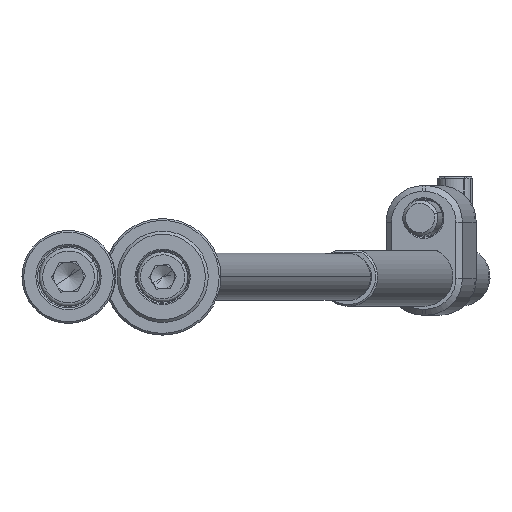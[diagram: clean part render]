
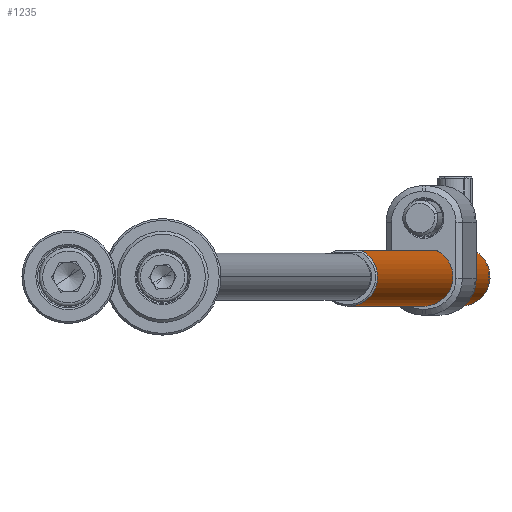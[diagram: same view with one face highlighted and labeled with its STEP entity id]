
A CAD part, front view. The second image highlights one B-rep face of the part: STEP entity #1235.
In plain terms, the highlighted cylindrical face has radius 5 mm (diameter 10 mm), a partial arc.
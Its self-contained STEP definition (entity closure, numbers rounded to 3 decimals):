
#70 = VERTEX_POINT ( 'NONE', #6350 ) ;
#299 = EDGE_CURVE ( 'NONE', #4900, #4956, #8722, .T. ) ;
#429 = AXIS2_PLACEMENT_3D ( 'NONE', #1332, #5747, #11234 ) ;
#703 = EDGE_CURVE ( 'NONE', #6483, #10701, #9786, .T. ) ;
#1075 = CARTESIAN_POINT ( 'NONE',  ( 4.5, -2.179, 200. ) ) ;
#1235 = ADVANCED_FACE ( 'NONE', ( #11343 ), #8223, .T. ) ;
#1332 = CARTESIAN_POINT ( 'NONE',  ( 0., 0., 199.7 ) ) ;
#1866 = CARTESIAN_POINT ( 'NONE',  ( 4.069, -2.906, 10.771 ) ) ;
#1951 = CARTESIAN_POINT ( 'NONE',  ( -5., 0., 199.7 ) ) ;
#2110 = DIRECTION ( 'NONE',  ( 0., 0., -1. ) ) ;
#2662 = CARTESIAN_POINT ( 'NONE',  ( 4.258, -2.623, 8.532 ) ) ;
#2895 = CARTESIAN_POINT ( 'NONE',  ( 4.438, -2.308, 8.074 ) ) ;
#3710 = DIRECTION ( 'NONE',  ( 0., 0., 1. ) ) ;
#3944 = CARTESIAN_POINT ( 'NONE',  ( 4.014, -2.982, 9.617 ) ) ;
#4020 = CARTESIAN_POINT ( 'NONE',  ( 4., -3., 10.198 ) ) ;
#4049 = EDGE_CURVE ( 'NONE', #10701, #7567, #6565, .T. ) ;
#4642 = ORIENTED_EDGE ( 'NONE', *, *, #4049, .T. ) ;
#4763 = CARTESIAN_POINT ( 'NONE',  ( 4.5, -2.179, 12.062 ) ) ;
#4900 = VERTEX_POINT ( 'NONE', #4763 ) ;
#4956 = VERTEX_POINT ( 'NONE', #11198 ) ;
#5032 = CARTESIAN_POINT ( 'NONE',  ( 4.5, -2.179, 12.062 ) ) ;
#5115 = EDGE_CURVE ( 'NONE', #70, #4900, #8725, .T. ) ;
#5373 = DIRECTION ( 'NONE',  ( 0., 0., -1. ) ) ;
#5747 = DIRECTION ( 'NONE',  ( 0., 0., -1. ) ) ;
#5986 = AXIS2_PLACEMENT_3D ( 'NONE', #12545, #10365, #12407 ) ;
#6172 = EDGE_CURVE ( 'NONE', #4956, #7567, #6791, .T. ) ;
#6188 = CARTESIAN_POINT ( 'NONE',  ( 4.202, -2.711, 8.701 ) ) ;
#6350 = CARTESIAN_POINT ( 'NONE',  ( 4.5, -2.179, 199.7 ) ) ;
#6483 = VERTEX_POINT ( 'NONE', #1951 ) ;
#6565 = CIRCLE ( 'NONE', #11791, 5. ) ;
#6791 = LINE ( 'NONE', #10990, #9754 ) ;
#7062 = CARTESIAN_POINT ( 'NONE',  ( 4., -3., 9.809 ) ) ;
#7291 = CARTESIAN_POINT ( 'NONE',  ( 4.203, -2.709, 11.303 ) ) ;
#7567 = VERTEX_POINT ( 'NONE', #10092 ) ;
#8132 = CARTESIAN_POINT ( 'NONE',  ( 4.376, -2.421, 11.781 ) ) ;
#8223 = CYLINDRICAL_SURFACE ( 'NONE', #5986, 5. ) ;
#8353 = CARTESIAN_POINT ( 'NONE',  ( 4.068, -2.908, 9.236 ) ) ;
#8374 = VECTOR ( 'NONE', #2110, 1000. ) ;
#8722 = B_SPLINE_CURVE_WITH_KNOTS ( 'NONE', 3,
 ( #5032, #9441, #8132, #11606, #7291, #9364, #1866, #13751, #4020, #7062, #3944, #8353, #12678, #6188, #2662, #12745, #2895, #10549 ),
 .UNSPECIFIED., .F., .F.,
 ( 4, 2, 2, 2, 2, 2, 2, 2, 4 ),
 ( 0., 0.001, 0.001, 0.002, 0.002, 0.003, 0.003, 0.004, 0.005 ),
 .UNSPECIFIED. ) ;
#8725 = LINE ( 'NONE', #1075, #8374 ) ;
#9251 = ORIENTED_EDGE ( 'NONE', *, *, #5115, .F. ) ;
#9364 = CARTESIAN_POINT ( 'NONE',  ( 4.108, -2.851, 10.952 ) ) ;
#9441 = CARTESIAN_POINT ( 'NONE',  ( 4.438, -2.307, 11.926 ) ) ;
#9754 = VECTOR ( 'NONE', #9758, 1000. ) ;
#9758 = DIRECTION ( 'NONE',  ( 0., 0., -1. ) ) ;
#9786 = LINE ( 'NONE', #10734, #11409 ) ;
#9902 = CIRCLE ( 'NONE', #429, 5. ) ;
#10092 = CARTESIAN_POINT ( 'NONE',  ( 4.5, -2.179, 0.3 ) ) ;
#10261 = ORIENTED_EDGE ( 'NONE', *, *, #703, .T. ) ;
#10365 = DIRECTION ( 'NONE',  ( 0., 0., -1. ) ) ;
#10404 = CARTESIAN_POINT ( 'NONE',  ( 0., 0., 0.3 ) ) ;
#10549 = CARTESIAN_POINT ( 'NONE',  ( 4.5, -2.179, 7.938 ) ) ;
#10701 = VERTEX_POINT ( 'NONE', #13855 ) ;
#10734 = CARTESIAN_POINT ( 'NONE',  ( -5., 0., 200. ) ) ;
#10990 = CARTESIAN_POINT ( 'NONE',  ( 4.5, -2.179, 200. ) ) ;
#11146 = EDGE_CURVE ( 'NONE', #70, #6483, #9902, .T. ) ;
#11198 = CARTESIAN_POINT ( 'NONE',  ( 4.5, -2.179, 7.938 ) ) ;
#11234 = DIRECTION ( 'NONE',  ( 1., 0., 0. ) ) ;
#11343 = FACE_OUTER_BOUND ( 'NONE', #11422, .T. ) ;
#11409 = VECTOR ( 'NONE', #5373, 1000. ) ;
#11422 = EDGE_LOOP ( 'NONE', ( #12529, #10261, #4642, #13623, #12774, #9251 ) ) ;
#11606 = CARTESIAN_POINT ( 'NONE',  ( 4.259, -2.621, 11.47 ) ) ;
#11791 = AXIS2_PLACEMENT_3D ( 'NONE', #10404, #3710, #13446 ) ;
#12407 = DIRECTION ( 'NONE',  ( -1., 0., 0. ) ) ;
#12529 = ORIENTED_EDGE ( 'NONE', *, *, #11146, .T. ) ;
#12545 = CARTESIAN_POINT ( 'NONE',  ( 0., 0., 200. ) ) ;
#12678 = CARTESIAN_POINT ( 'NONE',  ( 4.107, -2.852, 9.051 ) ) ;
#12745 = CARTESIAN_POINT ( 'NONE',  ( 4.376, -2.422, 8.22 ) ) ;
#12774 = ORIENTED_EDGE ( 'NONE', *, *, #299, .F. ) ;
#13446 = DIRECTION ( 'NONE',  ( 1., 0., 0. ) ) ;
#13623 = ORIENTED_EDGE ( 'NONE', *, *, #6172, .F. ) ;
#13751 = CARTESIAN_POINT ( 'NONE',  ( 4.015, -2.98, 10.396 ) ) ;
#13855 = CARTESIAN_POINT ( 'NONE',  ( -5., 0., 0.3 ) ) ;
